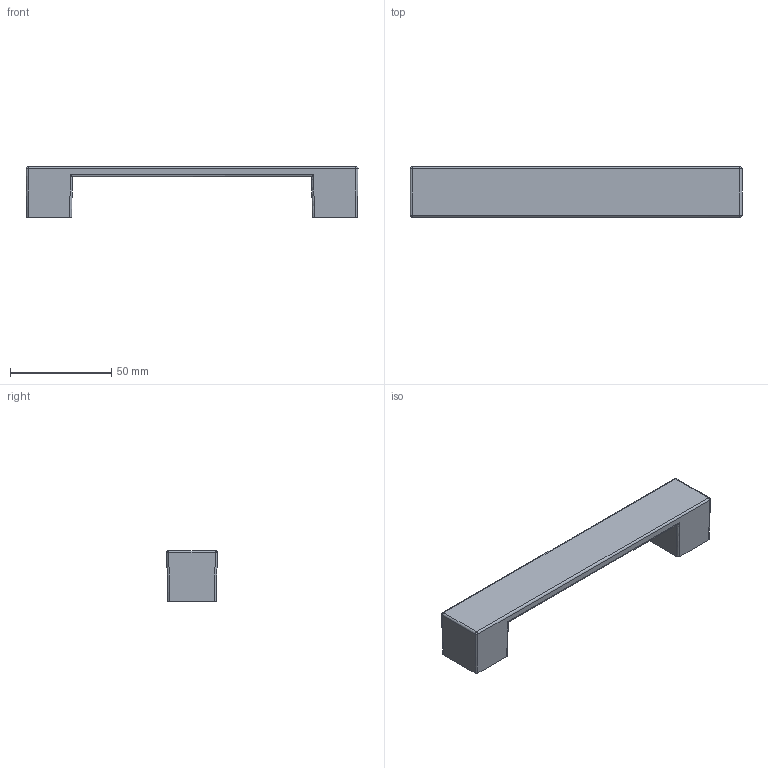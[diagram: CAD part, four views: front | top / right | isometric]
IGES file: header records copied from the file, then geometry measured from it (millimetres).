
Start section: C
Global section: file name: 8004l.igs; native system: By Siemens PLM Incorporated; preprocessor: XPlus GENERIC/IGES 16.0.42; author: Author; organization: Title; date: 20231129.090746; units: millimetre
Bounding box: 163.96 x 24.96 x 25 mm (x, y, z)
Surface area: 18308.7 mm2 (no closed solid volume)
Topology: 0 solids, 0 shells, 51 faces, 270 edges, 266 vertices
Faces by surface type: bspline 51
